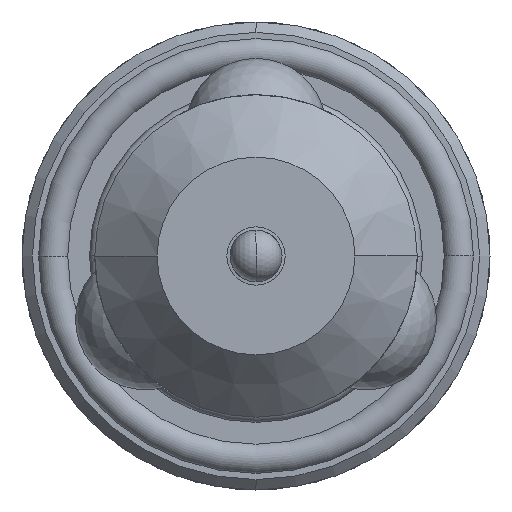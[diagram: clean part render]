
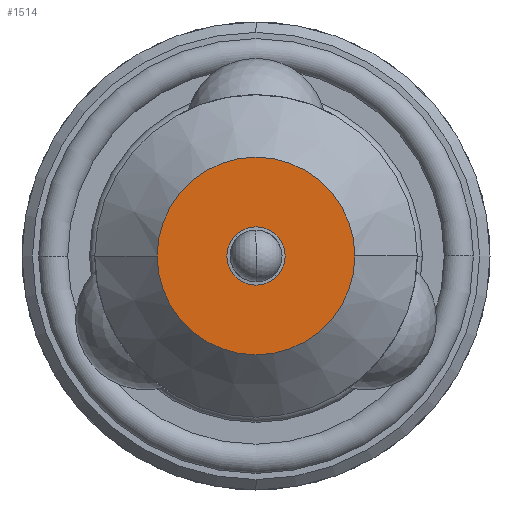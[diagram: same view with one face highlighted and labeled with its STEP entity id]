
A CAD part, front view. The second image highlights one B-rep face of the part: STEP entity #1514.
In plain terms, the highlighted planar face has unit normal (0, -1, 0).
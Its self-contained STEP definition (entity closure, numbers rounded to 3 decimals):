
#124 = AXIS2_PLACEMENT_3D ( 'NONE', #3020, #571, #3434 ) ;
#322 = DIRECTION ( 'NONE',  ( 0., -1., 0. ) ) ;
#419 = CIRCLE ( 'NONE', #4665, 1.4 ) ;
#571 = DIRECTION ( 'NONE',  ( 0., 1., 0. ) ) ;
#587 = VERTEX_POINT ( 'NONE', #4670 ) ;
#849 = DIRECTION ( 'NONE',  ( 0., -1., 0. ) ) ;
#943 = ORIENTED_EDGE ( 'NONE', *, *, #3967, .F. ) ;
#1004 = ORIENTED_EDGE ( 'NONE', *, *, #2308, .F. ) ;
#1191 = CARTESIAN_POINT ( 'NONE',  ( -1.4, -50.7, 0. ) ) ;
#1234 = DIRECTION ( 'NONE',  ( 0., 1., 0. ) ) ;
#1397 = CIRCLE ( 'NONE', #2474, 4.75 ) ;
#1514 = ADVANCED_FACE ( 'NONE', ( #5029, #2994 ), #3992, .T. ) ;
#1671 = EDGE_CURVE ( 'NONE', #587, #5252, #1397, .T. ) ;
#1675 = EDGE_CURVE ( 'NONE', #4749, #2599, #3563, .T. ) ;
#1833 = CARTESIAN_POINT ( 'NONE',  ( 1.4, -50.7, 0. ) ) ;
#1997 = EDGE_LOOP ( 'NONE', ( #943, #4960 ) ) ;
#2060 = CARTESIAN_POINT ( 'NONE',  ( 0., -50.7, 0. ) ) ;
#2308 = EDGE_CURVE ( 'NONE', #2599, #4749, #419, .T. ) ;
#2369 = CARTESIAN_POINT ( 'NONE',  ( -4.75, -50.7, 0. ) ) ;
#2474 = AXIS2_PLACEMENT_3D ( 'NONE', #3677, #1234, #4104 ) ;
#2476 = DIRECTION ( 'NONE',  ( 1., 0., 0. ) ) ;
#2523 = ORIENTED_EDGE ( 'NONE', *, *, #1675, .F. ) ;
#2599 = VERTEX_POINT ( 'NONE', #1833 ) ;
#2994 = FACE_OUTER_BOUND ( 'NONE', #1997, .T. ) ;
#3016 = AXIS2_PLACEMENT_3D ( 'NONE', #2060, #4911, #2476 ) ;
#3020 = CARTESIAN_POINT ( 'NONE',  ( 0., -50.7, 0. ) ) ;
#3189 = DIRECTION ( 'NONE',  ( 1., 0., 0. ) ) ;
#3301 = CARTESIAN_POINT ( 'NONE',  ( 0., -50.7, 0. ) ) ;
#3434 = DIRECTION ( 'NONE',  ( -1., 0., 0. ) ) ;
#3563 = CIRCLE ( 'NONE', #3016, 1.4 ) ;
#3625 = CIRCLE ( 'NONE', #124, 4.75 ) ;
#3677 = CARTESIAN_POINT ( 'NONE',  ( 0., -50.7, 0. ) ) ;
#3708 = DIRECTION ( 'NONE',  ( 1., 0., 0. ) ) ;
#3967 = EDGE_CURVE ( 'NONE', #5252, #587, #3625, .T. ) ;
#3992 = PLANE ( 'NONE',  #4483 ) ;
#4066 = EDGE_LOOP ( 'NONE', ( #1004, #2523 ) ) ;
#4104 = DIRECTION ( 'NONE',  ( -1., 0., 0. ) ) ;
#4483 = AXIS2_PLACEMENT_3D ( 'NONE', #2369, #322, #3189 ) ;
#4665 = AXIS2_PLACEMENT_3D ( 'NONE', #3301, #849, #3708 ) ;
#4670 = CARTESIAN_POINT ( 'NONE',  ( 4.75, -50.7, 0. ) ) ;
#4749 = VERTEX_POINT ( 'NONE', #1191 ) ;
#4911 = DIRECTION ( 'NONE',  ( 0., -1., 0. ) ) ;
#4960 = ORIENTED_EDGE ( 'NONE', *, *, #1671, .F. ) ;
#5029 = FACE_BOUND ( 'NONE', #4066, .T. ) ;
#5209 = CARTESIAN_POINT ( 'NONE',  ( -4.75, -50.7, 0. ) ) ;
#5252 = VERTEX_POINT ( 'NONE', #5209 ) ;
